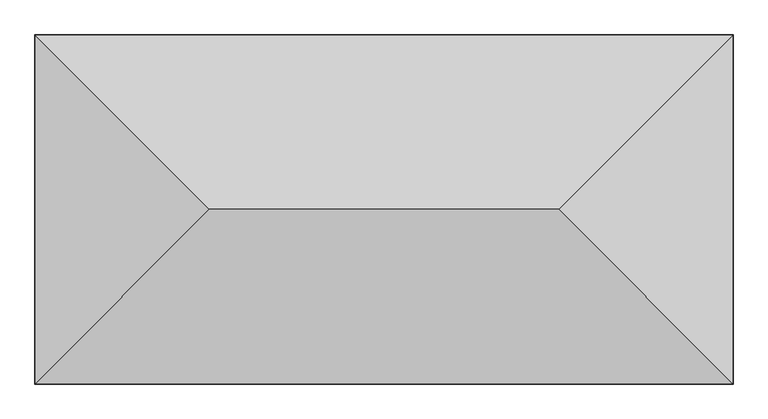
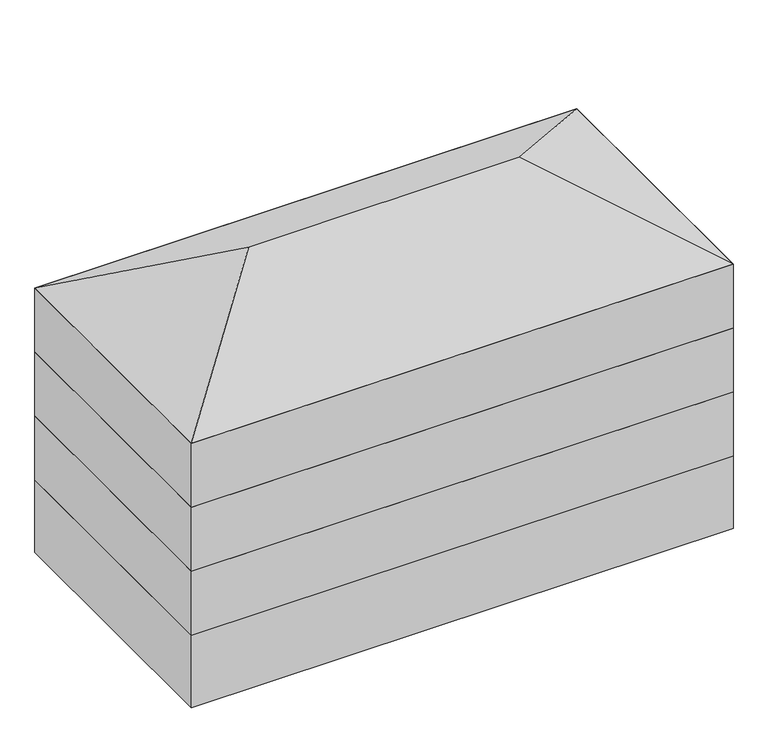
"""IFC4 building model written with IfcOpenShell, lengths in millimetres: geographic element geometry, Окружающая застройка : 3 кж."""

import ifcopenshell
import ifcopenshell.guid

model = None  # the IFC model being written
_history = None  # IfcOwnerHistory: only IFC2X3 demands one
_inside = {}  # id of a spatial element -> (the spatial element, [elements in it])
_under = {}  # id of a project, library or spatial element -> (it, [spatial elements below it])
_declared = {}  # id of a project -> (the project, [libraries it declares])
_typed = {}  # id of a type object -> (the type object, [elements of that type])
_made_of = {}  # id of a material, layer set ... -> (it, [elements and type objects made of it])


def new_model(schema):
    """Start an empty IFC model of exactly this schema.

    Asked for "IFC4X3", IfcOpenShell would pick the latest addendum, in which some entities
    have other attributes; the version numbers below select the first issue.
    IFC2X3 requires an IfcOwnerHistory on every rooted entity: one is made here for all.
    """
    global model, _history
    if schema == "IFC4X3":
        model = ifcopenshell.file(schema_version=(4, 3, 0, 0))
    else:
        model = ifcopenshell.file(schema=schema)
    _inside.clear()
    _under.clear()
    _declared.clear()
    _typed.clear()
    _made_of.clear()
    _history = None
    if model.schema == "IFC2X3":
        org = make("IfcOrganization", Name="unknown")
        user = make(
            "IfcPersonAndOrganization",
            ThePerson=make("IfcPerson", FamilyName="unknown"),
            TheOrganization=org,
        )
        app = make(
            "IfcApplication",
            ApplicationDeveloper=org,
            Version="unknown",
            ApplicationFullName="unknown",
            ApplicationIdentifier="unknown",
        )
        _history = make(
            "IfcOwnerHistory",
            OwningUser=user,
            OwningApplication=app,
            ChangeAction="ADDED",
            CreationDate=0,
        )
    return model


def make(cls, **values):
    """One entity of the class cls with the attributes given. An attribute that is None is left unset."""
    return model.create_entity(
        cls, **{name: value for name, value in values.items() if value is not None}
    )


def rooted(cls, **values):
    """An entity with a GlobalId (a new one), such as an element, a storey or a relation."""
    return make(cls, GlobalId=ifcopenshell.guid.new(), OwnerHistory=_history, **values)


def si_unit(unit_type, name, prefix=None):
    """IfcSIUnit, for example si_unit("LENGTHUNIT", "METRE", prefix="MILLI")."""
    return make("IfcSIUnit", UnitType=unit_type, Prefix=prefix, Name=name)


def assignment(units):
    """IfcUnitAssignment: the units of a project."""
    return None if units is None else make("IfcUnitAssignment", Units=units)


def point(xyz):
    """IfcCartesianPoint."""
    return None if xyz is None else make("IfcCartesianPoint", Coordinates=xyz)


def direction(xyz):
    """IfcDirection."""
    return None if xyz is None else make("IfcDirection", DirectionRatios=xyz)


def frame(location, z_axis=None, x_axis=None):
    """IfcAxis2Placement3D, a coordinate frame: its origin and axes. An axis left out is left unset."""
    return make(
        "IfcAxis2Placement3D",
        Location=point(location),
        Axis=direction(z_axis),
        RefDirection=direction(x_axis),
    )


def origin():
    """The frame at (0, 0, 0) with its axes left unset."""
    return frame((0.0, 0.0, 0.0))


def origin_with_axes():
    """The frame at (0, 0, 0) with the z axis (0, 0, 1) and the x axis (1, 0, 0) written out."""
    return frame((0.0, 0.0, 0.0), z_axis=(0.0, 0.0, 1.0), x_axis=(1.0, 0.0, 0.0))


def place(relative_to, where):
    """IfcLocalPlacement: puts the frame where relative to a parent placement (None: the world)."""
    return make(
        "IfcLocalPlacement", PlacementRelTo=relative_to, RelativePlacement=where
    )


def context(
    kind, dimensions, precision=None, world=None, true_north=None, identifier=None
):
    """IfcGeometricRepresentationContext, for example the 3D "Model" context."""
    return make(
        "IfcGeometricRepresentationContext",
        ContextIdentifier=identifier,
        ContextType=kind,
        CoordinateSpaceDimension=dimensions,
        Precision=precision,
        WorldCoordinateSystem=world,
        TrueNorth=true_north,
    )


def project(units=None, contexts=None):
    """IfcProject with its units and contexts."""
    return rooted(
        "IfcProject",
        Name="project",
        RepresentationContexts=contexts,
        UnitsInContext=assignment(units),
    )


def spatial(cls, under=None, at=None, **own):
    """A site, building, storey or space (cls), placed at a placement, below another one or the project."""
    s = rooted(cls, ObjectPlacement=at, **own)
    if under is not None:
        _under.setdefault(under.id(), (under, []))[1].append(s)
    return s


def polyline(points):
    """IfcPolyline through the points."""
    return make("IfcPolyline", Points=[point(p) for p in points])


def outline(outer, holes=None, kind="AREA"):
    """IfcArbitraryClosedProfileDef: a profile drawn as a closed curve; with holes, ...WithVoids."""
    if holes is None:
        return make("IfcArbitraryClosedProfileDef", ProfileType=kind, OuterCurve=outer)
    return make(
        "IfcArbitraryProfileDefWithVoids",
        ProfileType=kind,
        OuterCurve=outer,
        InnerCurves=holes,
    )


def extrude(swept, where, along, depth):
    """IfcExtrudedAreaSolid: the profile swept, set in the frame where, extruded along a direction by depth."""
    return make(
        "IfcExtrudedAreaSolid",
        SweptArea=swept,
        Position=where,
        ExtrudedDirection=direction(along),
        Depth=depth,
    )


def faces_of(points, faces, orient=None, outer=None):
    """IfcFace entities. A face is a list of loops; a loop is a list of indices into points, from 0.

    orient and outer hold one flag for each loop. By default every Orientation is true, the
    first loop of a face is its IfcFaceOuterBound and the others are IfcFaceBound.
    """
    made = []
    for i, loops in enumerate(faces):
        bounds = []
        for j, loop in enumerate(loops):
            is_outer = j == 0 if outer is None else outer[i][j]
            bounds.append(
                make(
                    "IfcFaceOuterBound" if is_outer else "IfcFaceBound",
                    Bound=make("IfcPolyLoop", Polygon=[points[k] for k in loop]),
                    Orientation=True if orient is None else orient[i][j],
                )
            )
        made.append(make("IfcFace", Bounds=bounds))
    return made


def faceted_brep(points, faces, orient=None, outer=None, voids=None):
    """IfcFacetedBrep: a solid bounded by flat faces; with voids (closed shells), ...WithVoids."""
    shared = [point(p) for p in points]
    hull = make("IfcClosedShell", CfsFaces=faces_of(shared, faces, orient, outer))
    if voids is None:
        return make("IfcFacetedBrep", Outer=hull)
    return make(
        "IfcFacetedBrepWithVoids",
        Outer=hull,
        Voids=[
            make(cls, CfsFaces=faces_of(shared, fs, o, b)) for cls, fs, o, b in voids
        ],
    )


def shape(context_of_items, identifier, shape_type, items):
    """IfcShapeRepresentation: the items that make up one representation, for example the "Body"."""
    return make(
        "IfcShapeRepresentation",
        ContextOfItems=context_of_items,
        RepresentationIdentifier=identifier,
        RepresentationType=shape_type,
        Items=items,
    )


def source(mapping_origin, context_of_items, identifier, shape_type, items):
    """IfcRepresentationMap: a shape defined once, which mapped items show again and again."""
    return make(
        "IfcRepresentationMap",
        MappingOrigin=mapping_origin,
        MappedRepresentation=shape(context_of_items, identifier, shape_type, items),
    )


def transform(
    local_origin,
    x_axis=None,
    y_axis=None,
    z_axis=None,
    scale=None,
    scale2=None,
    scale3=None,
    uniform=True,
):
    """IfcCartesianTransformationOperator3D, or its non-uniform kind. x_axis, y_axis, z_axis: its Axis1, 2, 3."""
    if uniform:
        return make(
            "IfcCartesianTransformationOperator3D",
            Axis1=direction(x_axis),
            Axis2=direction(y_axis),
            LocalOrigin=point(local_origin),
            Scale=scale,
            Axis3=direction(z_axis),
        )
    return make(
        "IfcCartesianTransformationOperator3DnonUniform",
        Axis1=direction(x_axis),
        Axis2=direction(y_axis),
        LocalOrigin=point(local_origin),
        Scale=scale,
        Axis3=direction(z_axis),
        Scale2=scale2,
        Scale3=scale3,
    )


def mapped(mapping_source, mapping_target):
    """IfcMappedItem: shows the shape of a source again, moved by a transform."""
    return make(
        "IfcMappedItem", MappingSource=mapping_source, MappingTarget=mapping_target
    )


def made_of(thing, what):
    """Note that an element or type object is made of a material, layer set ...; save() writes the relation."""
    if what is not None:
        _made_of.setdefault(what.id(), (what, []))[1].append(thing)
    return thing


def element(
    cls,
    number,
    at=None,
    inside=None,
    cuts=None,
    type_object=None,
    material=None,
    context=None,
    identifier="Body",
    shape_type=None,
    held_by="IfcProductDefinitionShape",
    body=None,
    shapes=None,
    **own,
):
    """One element of the class cls, such as IfcWall. Its Tag is "e" and its number.

    at: its placement. inside: the storey or other place that contains it. cuts: it is an
    opening in that element (IfcRelVoidsElement). A single representation is given by context,
    identifier, shape_type and body (its items); several are given by shapes. held_by: the class
    of the entity that holds the representations. save() writes the other relations.
    """
    e = rooted(cls, Tag="e%d" % number, ObjectPlacement=at, **own)
    if body is not None:
        shapes = [shape(context, identifier, shape_type, body)]
    if shapes is not None:
        e.Representation = make(held_by, Representations=shapes)
    if inside is not None:
        _inside.setdefault(inside.id(), (inside, []))[1].append(e)
    if cuts is not None:
        rooted(
            "IfcRelVoidsElement", RelatingBuildingElement=cuts, RelatedOpeningElement=e
        )
    if type_object is not None:
        _typed.setdefault(type_object.id(), (type_object, []))[1].append(e)
    return made_of(e, material)


def aggregate(whole, parts):
    """IfcRelAggregates: a whole, such as a stair, and the parts it consists of."""
    return rooted("IfcRelAggregates", RelatingObject=whole, RelatedObjects=parts)


def save(model, path):
    """Write the relations noted so far, then the file.

    IfcRelAggregates (storeys below a building ...), IfcRelContainedInSpatialStructure (elements
    in a storey), IfcRelDefinesByType, IfcRelAssociatesMaterial and IfcRelDeclares: one each for
    every whole, place, type object, material and project.
    """
    for whole, parts in _under.values():
        aggregate(whole, parts)
    for where, things in _inside.values():
        rooted(
            "IfcRelContainedInSpatialStructure",
            RelatedElements=things,
            RelatingStructure=where,
        )
    for kind, things in _typed.values():
        rooted("IfcRelDefinesByType", RelatedObjects=things, RelatingType=kind)
    for what, things in _made_of.values():
        rooted("IfcRelAssociatesMaterial", RelatedObjects=things, RelatingMaterial=what)
    for by, libraries in _declared.values():
        rooted("IfcRelDeclares", RelatingContext=by, RelatedDefinitions=libraries)
    model.write(path)


def geographic_element_1048d0ae(model_context):
    return source(origin(), model_context, "Body", "SolidModel", [
        extrude(outline(polyline([(24000.0, 0.0), (0.0, 0.0), (0.0, 12000.0), (24000.0, 12000.0), (24000.0, 0.0)])), origin_with_axes(), (0.0, 0.0, 1.0), 3000.0),
        extrude(outline(polyline([(24000.0, 12000.0), (24000.0, 0.0), (0.0, 0.0), (0.0, 12000.0), (24000.0, 12000.0)])), frame((0.0, 0.0, -3390.8), z_axis=(0.0, 0.0, 1.0), x_axis=(1.0, 0.0, 0.0)), (0.0, 0.0, 1.0), 3390.8),
        faceted_brep([(24000.0, 0.0, 9000.0), (0.0, 0.0, 9000.0), (0.0, 12000.0, 9000.0), (24000.0, 12000.0, 9000.0), (6000.0, 6000.0, 12464.1016151), (18000.0, 6000.0, 12464.1016151)], [[[0, 1, 2, 3]], [[3, 2, 4, 5]], [[1, 0, 5, 4]], [[2, 1, 4]], [[0, 3, 5]]]),
        extrude(outline(polyline([(24000.0, 0.0), (0.0, 0.0), (0.0, 12000.0), (24000.0, 12000.0), (24000.0, 0.0)])), frame((0.0, 0.0, 3000.0), z_axis=(0.0, 0.0, 1.0), x_axis=(1.0, 0.0, 0.0)), (0.0, 0.0, 1.0), 3000.0),
        extrude(outline(polyline([(24000.0, 0.0), (0.0, 0.0), (0.0, 12000.0), (24000.0, 12000.0), (24000.0, 0.0)])), frame((0.0, 0.0, 6000.0), z_axis=(0.0, 0.0, 1.0), x_axis=(1.0, 0.0, 0.0)), (0.0, 0.0, 1.0), 3000.0),
    ])


if __name__ == "__main__":
    model = new_model("IFC4")
    model_context = context("Model", 3, world=origin())
    ifc_project = project(units=[si_unit("LENGTHUNIT", "METRE", prefix="MILLI")], contexts=[model_context])
    site = spatial("IfcSite", under=ifc_project)
    building = spatial("IfcBuilding", under=site)
    placement = place(None, origin())
    geographic_element_shape = geographic_element_1048d0ae(model_context)
    element("IfcGeographicElement", 1, ObjectType="Окружающая застройка : 3 кж", at=placement, inside=building, context=model_context, shape_type="MappedRepresentation", body=[
        mapped(geographic_element_shape, transform((0.0, 0.0, 0.0), x_axis=(1.0, 0.0, 0.0), y_axis=(0.0, 1.0, 0.0), z_axis=(0.0, 0.0, 1.0))),
    ])
    save(model, "model.ifc")
